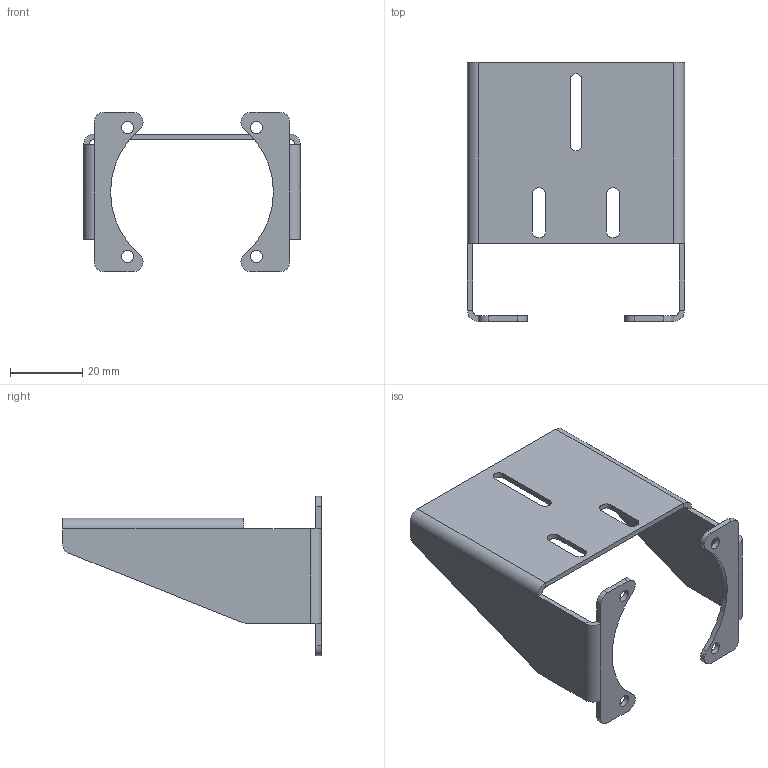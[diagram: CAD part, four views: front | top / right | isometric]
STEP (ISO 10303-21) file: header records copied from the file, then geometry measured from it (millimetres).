
FILE_DESCRIPTION (( 'STEP AP214' ), '1' );
FILE_NAME ('02147.01 Kamerahalter DTL ace, d=45.STEP', '2021-04-19T07:24:30', ( '' ), ( '' ), 'SwSTEP 2.0', 'SolidWorks 2013', '' );
FILE_SCHEMA (( 'AUTOMOTIVE_DESIGN' ));
Length unit declared in the file: millimetre
Products named in the file (1): 02147.01 Kamerahalter DTL ace, d=45
Bounding box: 60 x 71.5 x 44 mm (x, y, z)
Volume: 9477.4 mm3; surface area: 13626.6 mm2
Topology: 1 solids, 1 shells, 83 faces, 211 edges, 130 vertices
Faces by surface type: plane 42, cylinder 41
Entity records: 2555 total; most frequent: DIRECTION 461, CARTESIAN_POINT 425, ORIENTED_EDGE 422, EDGE_CURVE 211, AXIS2_PLACEMENT_3D 166, VERTEX_POINT 130, LINE 129, VECTOR 129
